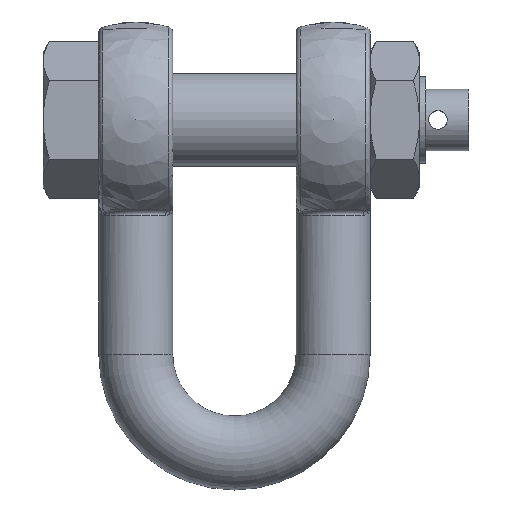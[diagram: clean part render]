
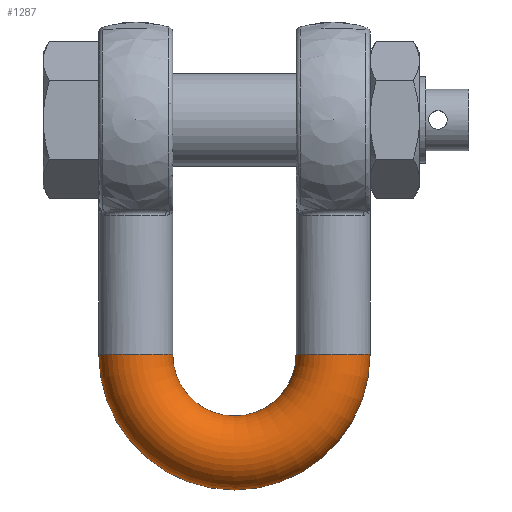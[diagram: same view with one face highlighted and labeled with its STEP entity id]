
A CAD part, top view. The second image highlights one B-rep face of the part: STEP entity #1287.
In plain terms, the highlighted toroidal (fillet/blend) face has major radius 16 mm and minor radius 6 mm.
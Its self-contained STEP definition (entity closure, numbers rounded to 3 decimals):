
#123=TOROIDAL_SURFACE('',#1460,16.,6.);
#234=FACE_OUTER_BOUND('',#323,.T.);
#323=EDGE_LOOP('',(#1029,#1030,#1031,#1032,#1033,#1034));
#486=CIRCLE('',#1458,6.);
#487=CIRCLE('',#1459,6.);
#488=CIRCLE('',#1461,10.);
#489=CIRCLE('',#1462,6.);
#490=CIRCLE('',#1463,6.);
#579=VERTEX_POINT('',#2862);
#580=VERTEX_POINT('',#2864);
#581=VERTEX_POINT('',#2868);
#582=VERTEX_POINT('',#2870);
#739=EDGE_CURVE('',#579,#580,#486,.T.);
#740=EDGE_CURVE('',#580,#579,#487,.T.);
#741=EDGE_CURVE('',#580,#581,#488,.T.);
#742=EDGE_CURVE('',#581,#582,#489,.T.);
#743=EDGE_CURVE('',#582,#581,#490,.T.);
#1029=ORIENTED_EDGE('',*,*,#740,.F.);
#1030=ORIENTED_EDGE('',*,*,#741,.T.);
#1031=ORIENTED_EDGE('',*,*,#742,.T.);
#1032=ORIENTED_EDGE('',*,*,#743,.T.);
#1033=ORIENTED_EDGE('',*,*,#741,.F.);
#1034=ORIENTED_EDGE('',*,*,#739,.F.);
#1287=ADVANCED_FACE('',(#234),#123,.T.);
#1458=AXIS2_PLACEMENT_3D('',#2865,#1691,#1692);
#1459=AXIS2_PLACEMENT_3D('',#2866,#1693,#1694);
#1460=AXIS2_PLACEMENT_3D('',#2867,#1695,#1696);
#1461=AXIS2_PLACEMENT_3D('',#2869,#1697,#1698);
#1462=AXIS2_PLACEMENT_3D('',#2871,#1699,#1700);
#1463=AXIS2_PLACEMENT_3D('',#2872,#1701,#1702);
#1691=DIRECTION('center_axis',(0.,1.,0.));
#1692=DIRECTION('ref_axis',(1.,0.,0.));
#1693=DIRECTION('center_axis',(0.,1.,0.));
#1694=DIRECTION('ref_axis',(1.,0.,0.));
#1695=DIRECTION('center_axis',(0.,0.,-1.));
#1696=DIRECTION('ref_axis',(-1.,0.,0.));
#1697=DIRECTION('center_axis',(0.,0.,1.));
#1698=DIRECTION('ref_axis',(-1.,0.,0.));
#1699=DIRECTION('center_axis',(0.,-1.,0.));
#1700=DIRECTION('ref_axis',(-1.,0.,0.));
#1701=DIRECTION('center_axis',(0.,-1.,0.));
#1702=DIRECTION('ref_axis',(-1.,0.,0.));
#2862=CARTESIAN_POINT('',(-22.,22.,0.));
#2864=CARTESIAN_POINT('',(-10.,22.,0.));
#2865=CARTESIAN_POINT('Origin',(-16.,22.,0.));
#2866=CARTESIAN_POINT('Origin',(-16.,22.,0.));
#2867=CARTESIAN_POINT('Origin',(0.,22.,0.));
#2868=CARTESIAN_POINT('',(10.,22.,0.));
#2869=CARTESIAN_POINT('Origin',(0.,22.,0.));
#2870=CARTESIAN_POINT('',(22.,22.,0.));
#2871=CARTESIAN_POINT('Origin',(16.,22.,0.));
#2872=CARTESIAN_POINT('Origin',(16.,22.,0.));
